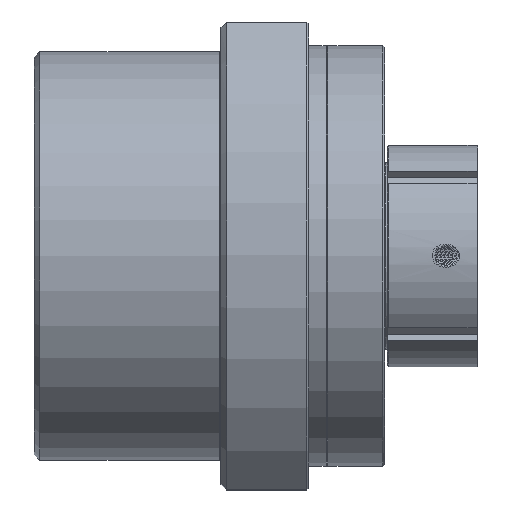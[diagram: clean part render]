
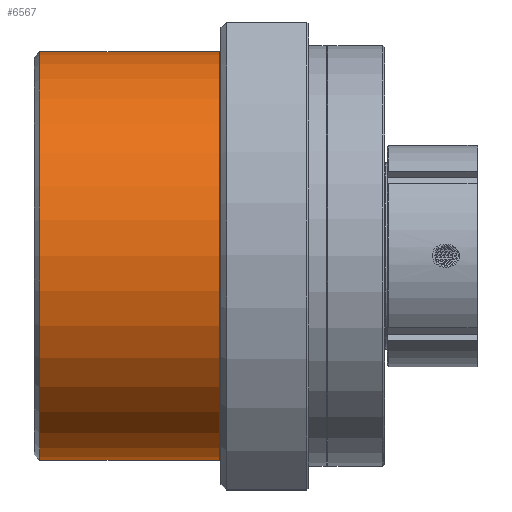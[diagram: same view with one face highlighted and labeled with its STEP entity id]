
A CAD part, top view. The second image highlights one B-rep face of the part: STEP entity #6567.
In plain terms, the highlighted cylindrical face has radius 35 mm (diameter 70 mm), a full revolution.
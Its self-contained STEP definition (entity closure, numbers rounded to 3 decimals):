
#4453=EDGE_CURVE('',#11139,#11139,#11140,.T.);
#5521=EDGE_CURVE('',#12826,#12826,#12827,.T.);
#6567=ADVANCED_FACE('',(#14417,#14418),#14419,.T.);
#11139=VERTEX_POINT('',#21494);
#11140=CIRCLE('',#21495,35.0);
#12826=VERTEX_POINT('',#24412);
#12827=CIRCLE('',#24413,35.0);
#14417=FACE_OUTER_BOUND('',#27136,.T.);
#14418=FACE_OUTER_BOUND('',#27137,.T.);
#14419=CYLINDRICAL_SURFACE('',#27138,35.0);
#21494=CARTESIAN_POINT('',(1.0,0.0,35.0));
#21495=AXIS2_PLACEMENT_3D('',#34353,#34354,#34355);
#24412=CARTESIAN_POINT('',(31.7,0.0,35.0));
#24413=AXIS2_PLACEMENT_3D('',#36453,#36454,#36455);
#27136=EDGE_LOOP('',(#38448));
#27137=EDGE_LOOP('',(#38449));
#27138=AXIS2_PLACEMENT_3D('',#38450,#38451,#38452);
#34353=CARTESIAN_POINT('',(1.0,0.0,0.0));
#34354=DIRECTION('',(1.0,0.0,-0.0));
#34355=DIRECTION('',(0.0,0.0,1.0));
#36453=CARTESIAN_POINT('',(31.7,0.0,0.0));
#36454=DIRECTION('',(1.0,0.0,-0.0));
#36455=DIRECTION('',(0.0,0.0,1.0));
#38448=ORIENTED_EDGE('',*,*,#4453,.T.);
#38449=ORIENTED_EDGE('',*,*,#5521,.F.);
#38450=CARTESIAN_POINT('',(16.35,0.0,0.0));
#38451=DIRECTION('',(-1.0,0.0,0.0));
#38452=DIRECTION('',(0.0,0.0,1.0));
